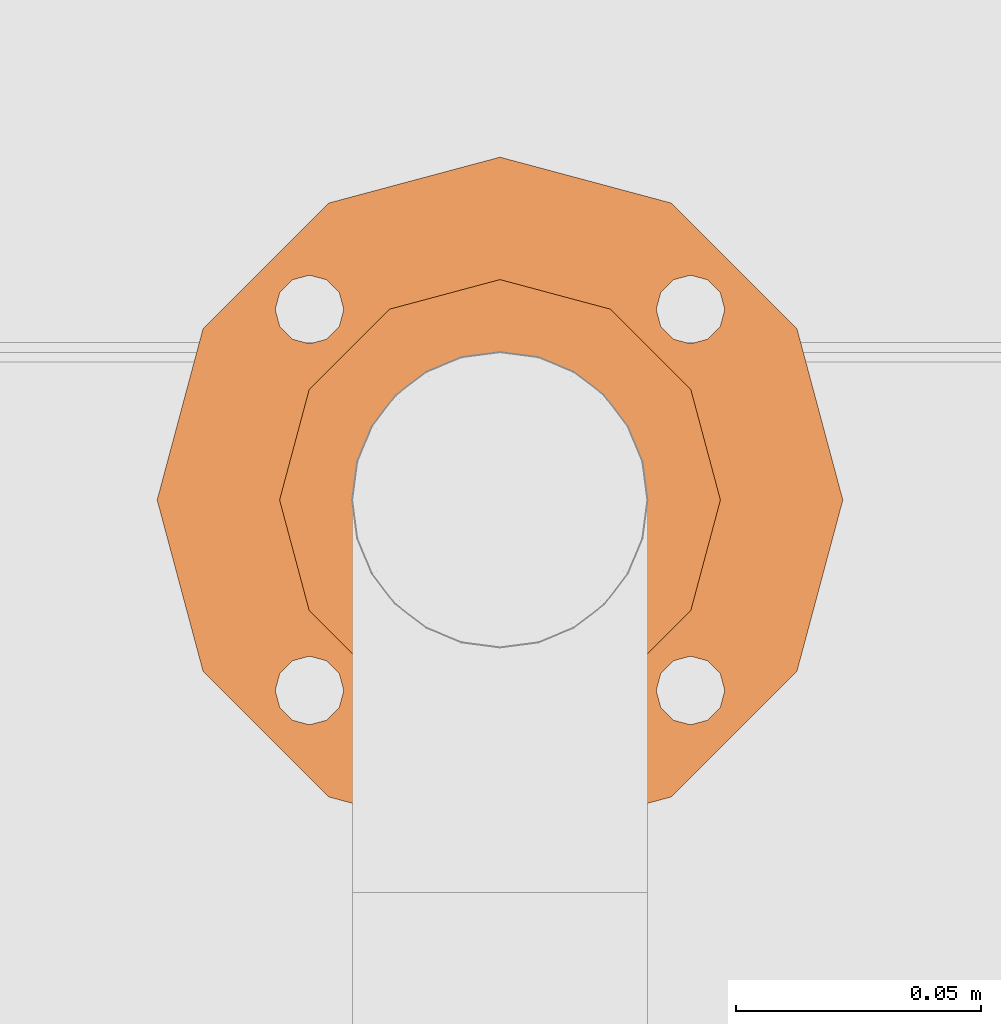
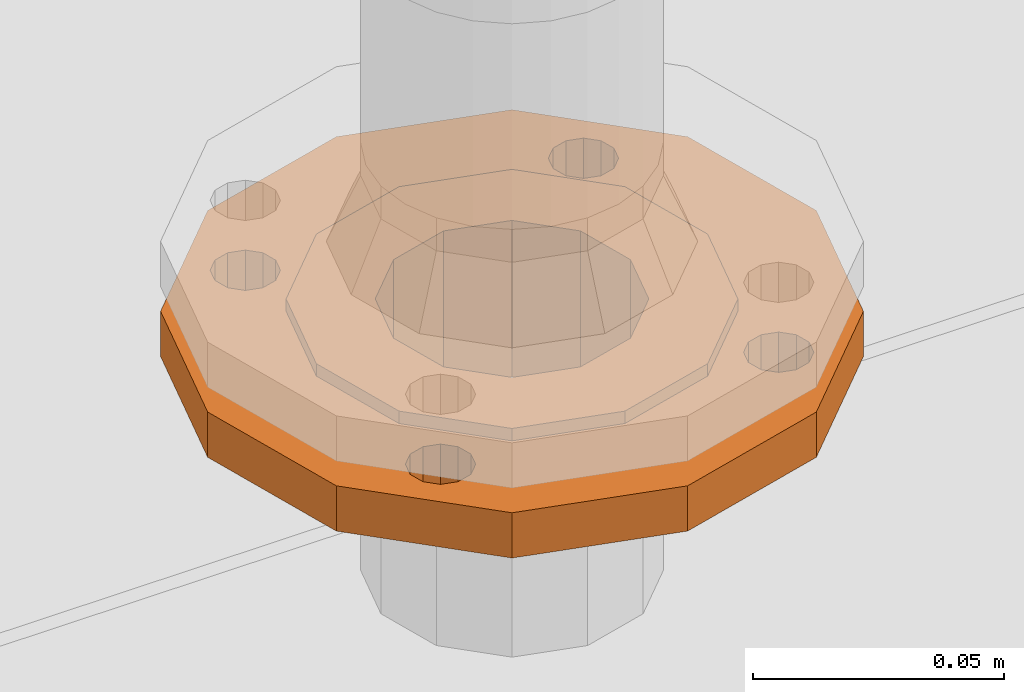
# One storey, part 368 of 374: 1 proxy.
"""IFC2X3 building model written with IfcOpenShell, lengths in metres."""

from ifc_helpers import new_model, si_unit, direction, origin, place, context, subcontext, project, spatial, open_shell, surface_model, source, transform, mapped, element, save


model = new_model("IFC2X3")

# Units and contexts
model_context = context("Model", 3, precision=1e-05, world=origin(), true_north=direction((-0.4480736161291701, 0.8939966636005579)))
body_context = subcontext(model_context, "Body", "Model", "MODEL_VIEW")
ifc_project = project(units=[si_unit("LENGTHUNIT", "METRE"), si_unit("AREAUNIT", "SQUARE_METRE"), si_unit("VOLUMEUNIT", "CUBIC_METRE"), si_unit("PLANEANGLEUNIT", "RADIAN"), si_unit("THERMODYNAMICTEMPERATUREUNIT", "KELVIN"), si_unit("MASSUNIT", "GRAM", prefix="KILO"), si_unit("TIMEUNIT", "SECOND")], contexts=[model_context])

# Site, building, storey
site_placement = place(None, origin())
site = spatial("IfcSite", under=ifc_project, at=site_placement, Name="Site 1", CompositionType="ELEMENT")
building_placement = place(site_placement, origin())
building = spatial("IfcBuilding", under=site, at=building_placement, Name="Undefined", CompositionType="ELEMENT")
storey_placement = place(building_placement, origin())
storey = spatial("IfcBuildingStorey", under=building, at=storey_placement, Name="Rez de chauss\x8ee", CompositionType="ELEMENT", Elevation=0.0)

# Proxy
shared_shape = source(origin(), body_context, "Body", "SurfaceModel", [
    surface_model("IfcFaceBasedSurfaceModel", [(0.011581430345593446, 7.105427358e-15, 7.105427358e-15), (0.010447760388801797, 0.0034415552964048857, 3.552713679e-15), (0.0, 0.0, 0.0), (0.009465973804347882, 0.006422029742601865, 0.0018117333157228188), (-0.0009817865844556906, 0.0029804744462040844, 0.0018117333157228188), (0.00889913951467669, 0.008142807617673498, 0.004949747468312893), (-0.0015486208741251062, 0.004701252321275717, 0.004949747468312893), (0.008899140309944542, 0.008142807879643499, 0.00857321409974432), (-0.001548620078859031, 0.004701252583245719, 0.00857321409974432), (0.009465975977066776, 0.006422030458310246, 0.011711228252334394), (-0.0009817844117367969, 0.002980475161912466, 0.011711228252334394), (0.010447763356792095, 0.003441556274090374, 0.013522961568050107), (2.967988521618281e-09, 9.77685488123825e-10, 0.013522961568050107), (0.01158143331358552, 9.77678382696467e-10, 0.013522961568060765), (0.0011336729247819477, -0.0034415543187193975, 0.013522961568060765), (0.012563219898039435, -0.0029804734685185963, 0.011711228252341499), (0.0021154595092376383, -0.0064220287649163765, 0.011711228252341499), (0.013130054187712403, -0.004701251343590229, 0.008573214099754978), (0.0026822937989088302, -0.00814280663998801, 0.008573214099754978), (0.013130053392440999, -0.004701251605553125, 0.004949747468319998), (0.002682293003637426, -0.00814280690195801, 0.004949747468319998), (0.012563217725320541, -0.0029804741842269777, 0.0018117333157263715), (0.002115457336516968, -0.006422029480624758, 0.0018117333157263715), (0.0011336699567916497, -0.003441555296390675, 7.105427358e-15), (0.010447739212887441, 0.003441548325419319, -0.09647703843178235), (0.011581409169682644, -6.970971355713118e-09, -0.0964770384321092), (0.0011336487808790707, -0.003441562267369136, -0.0964770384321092), (0.01256319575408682, -0.0029804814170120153, -0.09828877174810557), (0.002115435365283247, -0.0064220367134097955, -0.09828877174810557), (0.01313003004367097, -0.004701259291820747, -0.10142678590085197), (0.0026822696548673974, -0.008142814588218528, -0.10142678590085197), (0.013130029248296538, -0.004701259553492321, -0.1050502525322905), (0.0026822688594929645, -0.008142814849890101, -0.1050502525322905), (0.012563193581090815, -0.0029804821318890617, -0.10818826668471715), (0.0021154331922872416, -0.006422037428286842, -0.10818826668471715), (0.011581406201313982, -7.947498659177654e-09, -0.1100000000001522), (0.001133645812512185, -0.003441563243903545, -0.1100000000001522), (0.010447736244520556, 0.0034415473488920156, -0.10999999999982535), (-2.414428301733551e-08, -7.947505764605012e-09, -0.10999999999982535), (0.009465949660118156, 0.006422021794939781, -0.10818826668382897), (-0.0009818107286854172, 0.0029804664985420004, -0.10818826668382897), (0.008899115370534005, 0.008142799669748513, -0.10505025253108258), (-0.0015486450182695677, 0.0047012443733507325, -0.10505025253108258), (0.008899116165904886, 0.00814279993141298, -0.10142678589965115), (-0.001548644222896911, 0.004701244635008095, -0.10142678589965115), (0.009465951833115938, 0.006422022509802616, -0.0982887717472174), (-0.0009818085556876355, 0.002980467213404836, -0.0982887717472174), (-2.1175916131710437e-08, -6.970978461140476e-09, -0.09647703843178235), (-0.0040777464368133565, 0.04753754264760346, -0.04642678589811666), (-0.004077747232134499, 0.04753754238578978, -0.05005025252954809), (-0.014525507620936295, 0.044095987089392, -0.05005025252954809), (-0.004644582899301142, 0.04925831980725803, -0.0531882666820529), (-0.015092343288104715, 0.04581676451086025, -0.0531882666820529), (-0.005626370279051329, 0.052238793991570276, -0.05499999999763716), (-0.016074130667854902, 0.04879723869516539, -0.05499999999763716), (-0.006760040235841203, 0.05568034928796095, -0.05499999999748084), (-0.017207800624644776, 0.05223879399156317, -0.05499999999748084), (-0.007741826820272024, 0.05866082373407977, -0.05318826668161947), (-0.018189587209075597, 0.05521926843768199, -0.05318826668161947), (-0.008308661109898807, 0.060381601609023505, -0.05005025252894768), (-0.01875642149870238, 0.056940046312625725, -0.05005025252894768), (-0.008308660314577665, 0.06038160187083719, -0.0464267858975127), (-0.018756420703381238, 0.0569400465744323, -0.0464267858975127), (-0.007741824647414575, 0.05866082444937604, -0.04328877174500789), (-0.018189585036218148, 0.055219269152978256, -0.04328877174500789), (-0.006760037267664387, 0.055680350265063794, -0.04147703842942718), (-0.017207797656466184, 0.052238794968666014, -0.04147703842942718), (-0.005626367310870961, 0.05223879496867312, -0.04147703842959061), (-0.016074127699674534, 0.04879723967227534, -0.04147703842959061), (-0.004644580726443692, 0.049258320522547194, -0.04328877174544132), (-0.015092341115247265, 0.045816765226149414, -0.04328877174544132), (-0.01452550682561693, 0.04409598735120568, -0.04642678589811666), (0.02610691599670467, -0.0440959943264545, -0.050050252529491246), (0.026106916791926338, -0.04409599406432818, -0.046426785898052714), (0.015659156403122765, -0.04753754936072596, -0.046426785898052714), (0.026673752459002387, -0.04581677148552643, -0.043288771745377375), (0.01622599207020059, -0.04925832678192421, -0.043288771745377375), (0.02765553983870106, -0.04879724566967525, -0.041477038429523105), (0.017207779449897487, -0.052238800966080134, -0.041477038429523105), (0.02878920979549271, -0.05223880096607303, -0.04147703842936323), (0.018341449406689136, -0.05568035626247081, -0.04147703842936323), (0.029770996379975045, -0.05521927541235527, -0.04328877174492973), (0.019323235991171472, -0.05866083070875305, -0.04328877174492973), (0.030337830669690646, -0.056940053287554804, -0.04642678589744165), (0.019890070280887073, -0.060381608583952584, -0.04642678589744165), (0.030337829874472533, -0.05694005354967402, -0.050050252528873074), (0.01989006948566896, -0.060381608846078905, -0.050050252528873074), (0.029770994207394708, -0.05521927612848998, -0.05318826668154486), (0.019323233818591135, -0.05866083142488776, -0.05318826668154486), (0.028789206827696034, -0.05223880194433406, -0.054999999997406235), (0.018341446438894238, -0.05568035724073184, -0.054999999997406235), (0.027655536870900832, -0.04879724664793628, -0.05499999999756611), (0.017207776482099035, -0.05223880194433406, -0.05499999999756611), (0.02667375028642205, -0.04581677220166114, -0.053188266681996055), (0.016225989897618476, -0.04925832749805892, -0.053188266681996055), (0.015659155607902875, -0.04753754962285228, -0.050050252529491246), (-0.01978685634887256, -0.016641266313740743, -0.07736118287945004), (-0.015558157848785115, -0.029478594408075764, -0.06955778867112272), (-0.016199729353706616, -0.027530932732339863, -0.06750717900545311), (-0.013116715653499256, -0.036890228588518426, -0.05604191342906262), (-0.013993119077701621, -0.034229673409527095, -0.05529133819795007), (-0.013116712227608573, -0.03689022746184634, -0.04043512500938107), (-0.013993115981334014, -0.03422967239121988, -0.041185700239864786), (-0.015558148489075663, -0.029478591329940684, -0.026919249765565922), (-0.016199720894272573, -0.027530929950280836, -0.02896985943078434), (-0.02002167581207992, -0.015928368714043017, -0.021917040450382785), (-0.019786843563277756, -0.01664126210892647, -0.019115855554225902), (-0.024434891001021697, -0.0025308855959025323, -0.021917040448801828), (-0.024669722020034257, -0.0018179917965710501, -0.019115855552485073), (-0.028256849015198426, 0.009071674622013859, -0.028969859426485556), (-0.028898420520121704, 0.01101933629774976, -0.02691924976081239), (-0.03133986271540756, 0.018430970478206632, -0.040435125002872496), (-0.03046345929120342, 0.015770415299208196, -0.041185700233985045), (-0.03133986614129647, 0.018430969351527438, -0.056041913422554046), (-0.03046346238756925, 0.015770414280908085, -0.05529133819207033), (-0.028256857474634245, 0.009071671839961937, -0.06750717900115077), (-0.028898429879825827, 0.011019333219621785, -0.06955778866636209), (-0.024434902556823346, -0.002530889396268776, -0.07455999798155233), (-0.024669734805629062, -0.0018179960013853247, -0.07736118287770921), (-0.020021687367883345, -0.015928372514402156, -0.07455999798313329), (-0.005518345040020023, -0.034387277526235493, -0.05604191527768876), (-0.007959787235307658, -0.02697564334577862, -0.06955779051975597), (-0.012188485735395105, -0.014138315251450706, -0.07736118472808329), (-0.017071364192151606, 0.0006849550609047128, -0.07736118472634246), (-0.02130005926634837, 0.013522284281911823, -0.06955779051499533), (-0.02374149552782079, 0.020933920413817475, -0.05604191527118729), (-0.023741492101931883, 0.02093392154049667, -0.04043512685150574), (-0.021300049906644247, 0.013522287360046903, -0.026919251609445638), (-0.0170713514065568, 0.0006849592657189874, -0.019115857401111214), (-0.012188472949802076, -0.014138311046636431, -0.01911585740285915), (-0.007959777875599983, -0.02697564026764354, -0.026919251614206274), (-0.005518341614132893, -0.0343872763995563, -0.040435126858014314), (0.011748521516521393, -0.03566579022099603, -0.05781482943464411), (0.008752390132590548, -0.026570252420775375, -0.07440147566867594), (0.0035629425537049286, -0.010816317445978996, -0.0839777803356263), (-0.002429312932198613, 0.0073747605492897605, -0.08397778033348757), (-0.00761875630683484, 0.02312869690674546, -0.07440147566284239), (-0.010614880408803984, 0.03222423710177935, -0.057814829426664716), (-0.010614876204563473, 0.03222423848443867, -0.03866222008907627), (-0.007618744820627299, 0.023128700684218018, -0.02207557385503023), (-0.0024292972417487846, 0.007374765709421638, -0.01249926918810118), (0.003562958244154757, -0.010816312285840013, -0.012499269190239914), (0.00875240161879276, -0.026570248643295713, -0.022075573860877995), (0.011748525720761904, -0.035665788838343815, -0.03866222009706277), (-0.014919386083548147, 0.045291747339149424, 0.0012589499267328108), (-0.020587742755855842, 0.062499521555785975, -0.030121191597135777), (-0.0051015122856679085, 0.015487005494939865, 0.019376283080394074), (0.0062351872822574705, -0.018928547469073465, 0.019376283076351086), (0.016053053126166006, -0.048733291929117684, 0.0012589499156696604), (0.021721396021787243, -0.06594107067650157, -0.030121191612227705), (0.01605303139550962, -0.04873329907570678, -0.09773599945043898), (0.02172138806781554, -0.06594107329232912, -0.06635585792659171), (0.006235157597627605, -0.018928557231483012, -0.11585333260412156), (-0.0051015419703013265, 0.015486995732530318, -0.11585333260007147), (-0.014919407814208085, 0.04529174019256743, -0.09773599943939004), (-0.0205877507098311, 0.06249951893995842, -0.06635585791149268), (0.03216914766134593, -0.06249951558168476, -0.06635586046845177), (0.026500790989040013, -0.04529174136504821, -0.09773600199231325), (0.016682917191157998, -0.015486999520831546, -0.11585333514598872), (0.005346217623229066, 0.01892855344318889, -0.11585333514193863), (-0.004471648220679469, 0.04873329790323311, -0.09773600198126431), (-0.010139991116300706, 0.06594107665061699, -0.06635586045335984), (-0.01013998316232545, 0.06594107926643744, -0.030121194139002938), (-0.004471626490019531, 0.048733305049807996, 0.0012589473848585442), (0.00534624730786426, 0.018928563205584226, 0.01937628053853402), (0.016682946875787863, -0.015486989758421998, 0.01937628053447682), (0.02650081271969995, -0.04529173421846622, 0.0012589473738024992), (0.03216915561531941, -0.0624995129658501, -0.03012119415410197), (0.007370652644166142, 0.012782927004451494, -0.004771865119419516), (0.014658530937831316, -0.009341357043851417, -0.0047718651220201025), (0.020970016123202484, -0.028501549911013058, -0.016418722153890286), (0.02461395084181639, -0.0395636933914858, -0.036591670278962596), (0.014658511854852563, -0.009341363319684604, -0.0917051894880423), (0.00737063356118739, 0.012782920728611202, -0.0917051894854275), (-0.002584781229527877, 0.04300525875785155, -0.03659167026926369), (-0.0025847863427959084, 0.043005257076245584, -0.059885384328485), (0.0010591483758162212, 0.03194311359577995, -0.08005833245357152), (0.02461394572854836, -0.03956369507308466, -0.05988538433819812), (0.02097000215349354, -0.02850155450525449, -0.0800583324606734), (0.0010591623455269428, 0.031943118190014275, -0.016418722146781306), (0.027463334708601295, -0.038625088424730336, -0.05988538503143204), (0.02381939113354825, -0.027562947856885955, -0.08005833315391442), (0.017507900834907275, -0.008402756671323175, -0.09170519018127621), (0.010220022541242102, 0.013721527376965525, -0.09170519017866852), (0.00390853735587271, 0.03288172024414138, -0.08005833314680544), (0.00026460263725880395, 0.04394386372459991, -0.05988538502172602), (0.0002646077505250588, 0.04394386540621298, -0.0365916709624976), (0.003908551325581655, 0.0328817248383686, -0.016418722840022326), (0.010220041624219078, 0.013721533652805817, -0.004771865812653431), (0.017507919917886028, -0.008402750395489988, -0.004771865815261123), (0.02381940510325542, -0.027562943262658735, -0.0164187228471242), (0.027463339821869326, -0.03862508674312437, -0.036591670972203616), (0.016070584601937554, -0.004039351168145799, -0.021917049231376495), (0.019892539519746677, -0.015641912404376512, -0.02896986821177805), (0.022099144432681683, -0.02234065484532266, -0.041185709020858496), (0.022099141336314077, -0.02234065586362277, -0.05529134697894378), (0.01989253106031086, -0.01564191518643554, -0.06750718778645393), (0.011657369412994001, 0.00935813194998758, -0.021917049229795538), (0.007835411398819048, 0.020960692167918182, -0.02896986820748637), (0.005628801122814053, 0.02765943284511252, -0.041185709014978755), (0.0056287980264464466, 0.027659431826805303, -0.05529134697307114), (0.00783540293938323, 0.02096068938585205, -0.06750718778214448), (0.011657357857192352, 0.009358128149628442, -0.07456000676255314), (0.01607057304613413, -0.004039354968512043, -0.074560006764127)], [open_shell([[[0, 1, 2]], [[2, 1, 3]], [[2, 3, 4]], [[4, 3, 5]], [[4, 5, 6]], [[6, 5, 7]], [[6, 7, 8]], [[8, 7, 9]], [[8, 9, 10]], [[10, 9, 11]], [[10, 11, 12]], [[12, 11, 13]], [[12, 13, 14]], [[14, 13, 15]], [[14, 15, 16]], [[16, 15, 17]], [[16, 17, 18]], [[18, 17, 19]], [[18, 19, 20]], [[20, 19, 21]], [[20, 21, 22]], [[22, 21, 0]], [[22, 0, 23]], [[23, 0, 2]], [[24, 25, 26]], [[26, 25, 27]], [[26, 27, 28]], [[28, 27, 29]], [[28, 29, 30]], [[30, 29, 31]], [[30, 31, 32]], [[32, 31, 33]], [[32, 33, 34]], [[34, 33, 35]], [[34, 35, 36]], [[36, 35, 37]], [[36, 37, 38]], [[38, 37, 39]], [[38, 39, 40]], [[40, 39, 41]], [[40, 41, 42]], [[42, 41, 43]], [[42, 43, 44]], [[44, 43, 45]], [[44, 45, 46]], [[46, 45, 24]], [[46, 24, 47]], [[47, 24, 26]], [[48, 49, 50]], [[50, 49, 51]], [[50, 51, 52]], [[52, 51, 53]], [[52, 53, 54]], [[54, 53, 55]], [[54, 55, 56]], [[56, 55, 57]], [[56, 57, 58]], [[58, 57, 59]], [[58, 59, 60]], [[60, 59, 61]], [[60, 61, 62]], [[62, 61, 63]], [[62, 63, 64]], [[64, 63, 65]], [[64, 65, 66]], [[66, 65, 67]], [[66, 67, 68]], [[68, 67, 69]], [[68, 69, 70]], [[70, 69, 48]], [[70, 48, 71]], [[71, 48, 50]], [[72, 73, 74]], [[74, 73, 75]], [[74, 75, 76]], [[76, 75, 77]], [[76, 77, 78]], [[78, 77, 79]], [[78, 79, 80]], [[80, 79, 81]], [[80, 81, 82]], [[82, 81, 83]], [[82, 83, 84]], [[84, 83, 85]], [[84, 85, 86]], [[86, 85, 87]], [[86, 87, 88]], [[88, 87, 89]], [[88, 89, 90]], [[90, 89, 91]], [[90, 91, 92]], [[92, 91, 93]], [[92, 93, 94]], [[94, 93, 72]], [[94, 72, 95]], [[95, 72, 74]], [[96, 97, 98]], [[98, 97, 99]], [[98, 99, 100]], [[100, 99, 101]], [[100, 101, 102]], [[102, 101, 103]], [[102, 103, 104]], [[104, 103, 105]], [[103, 106, 105]], [[105, 106, 107]], [[106, 108, 107]], [[107, 108, 109]], [[108, 110, 109]], [[109, 110, 111]], [[109, 111, 112]], [[112, 111, 113]], [[112, 113, 114]], [[114, 113, 115]], [[113, 116, 115]], [[115, 116, 117]], [[116, 118, 117]], [[117, 118, 119]], [[118, 96, 119]], [[119, 96, 98]], [[120, 97, 121]], [[121, 97, 96]], [[121, 96, 122]], [[122, 96, 118]], [[122, 118, 123]], [[123, 118, 116]], [[123, 116, 124]], [[124, 116, 113]], [[124, 113, 125]], [[125, 113, 111]], [[125, 111, 126]], [[126, 111, 110]], [[126, 110, 127]], [[127, 110, 108]], [[127, 108, 128]], [[128, 108, 106]], [[128, 106, 129]], [[129, 106, 103]], [[129, 103, 130]], [[130, 103, 101]], [[130, 101, 131]], [[131, 101, 99]], [[131, 99, 120]], [[120, 99, 97]], [[132, 121, 133]], [[133, 121, 122]], [[133, 122, 134]], [[134, 122, 123]], [[134, 123, 135]], [[135, 123, 124]], [[135, 124, 136]], [[136, 124, 125]], [[136, 125, 137]], [[137, 125, 126]], [[137, 126, 138]], [[138, 126, 127]], [[138, 127, 139]], [[139, 127, 128]], [[139, 128, 140]], [[140, 128, 129]], [[140, 129, 141]], [[141, 129, 130]], [[141, 130, 142]], [[142, 130, 131]], [[142, 131, 143]], [[143, 131, 120]], [[143, 120, 132]], [[132, 120, 121]], [[2, 4, 140]], [[140, 4, 6]], [[140, 6, 139]], [[139, 6, 144]], [[139, 144, 68]], [[68, 144, 145]], [[68, 145, 66]], [[66, 145, 64]], [[144, 6, 146]], [[146, 6, 8]], [[146, 8, 10]], [[10, 12, 146]], [[146, 12, 147]], [[12, 14, 147]], [[147, 14, 16]], [[147, 16, 18]], [[18, 20, 147]], [[147, 20, 148]], [[22, 141, 20]], [[20, 141, 142]], [[20, 142, 148]], [[148, 142, 78]], [[148, 78, 149]], [[149, 78, 80]], [[149, 80, 82]], [[22, 23, 141]], [[141, 23, 2]], [[141, 2, 140]], [[26, 28, 134]], [[134, 28, 30]], [[134, 30, 133]], [[133, 30, 150]], [[133, 150, 92]], [[92, 150, 151]], [[92, 151, 90]], [[90, 151, 88]], [[150, 30, 152]], [[152, 30, 32]], [[152, 32, 34]], [[34, 36, 152]], [[152, 36, 153]], [[36, 38, 153]], [[153, 38, 40]], [[153, 40, 42]], [[42, 44, 153]], [[153, 44, 154]], [[46, 135, 44]], [[44, 135, 136]], [[44, 136, 154]], [[154, 136, 54]], [[154, 54, 155]], [[155, 54, 56]], [[155, 56, 58]], [[46, 47, 135]], [[135, 47, 134]], [[47, 26, 134]], [[68, 70, 138]], [[138, 70, 71]], [[138, 71, 50]], [[138, 50, 137]], [[137, 50, 52]], [[137, 52, 54]], [[58, 60, 155]], [[155, 60, 145]], [[60, 62, 145]], [[145, 62, 64]], [[92, 94, 132]], [[132, 94, 95]], [[132, 95, 74]], [[132, 74, 143]], [[143, 74, 76]], [[143, 76, 78]], [[82, 84, 149]], [[149, 84, 86]], [[149, 86, 151]], [[151, 86, 88]], [[136, 137, 54]], [[138, 139, 68]], [[142, 143, 78]], [[132, 133, 92]], [[156, 150, 157]], [[157, 150, 152]], [[157, 152, 158]], [[158, 152, 153]], [[158, 153, 159]], [[159, 153, 154]], [[159, 154, 160]], [[160, 154, 155]], [[160, 155, 161]], [[161, 155, 145]], [[161, 145, 162]], [[162, 145, 144]], [[162, 144, 163]], [[163, 144, 146]], [[163, 146, 164]], [[164, 146, 147]], [[164, 147, 165]], [[165, 147, 148]], [[165, 148, 166]], [[166, 148, 149]], [[166, 149, 167]], [[167, 149, 151]], [[167, 151, 156]], [[156, 151, 150]], [[5, 3, 168]], [[168, 3, 1]], [[168, 1, 169]], [[169, 1, 0]], [[169, 0, 21]], [[21, 19, 169]], [[169, 19, 165]], [[169, 165, 170]], [[170, 165, 166]], [[170, 166, 171]], [[171, 166, 167]], [[171, 167, 77]], [[77, 167, 79]], [[19, 17, 165]], [[165, 17, 15]], [[165, 15, 13]], [[165, 13, 164]], [[164, 13, 11]], [[164, 11, 9]], [[9, 7, 164]], [[164, 7, 5]], [[164, 5, 168]], [[29, 27, 172]], [[172, 27, 25]], [[172, 25, 173]], [[173, 25, 24]], [[173, 24, 45]], [[45, 43, 173]], [[173, 43, 159]], [[173, 159, 160]], [[43, 41, 159]], [[159, 41, 39]], [[159, 39, 37]], [[159, 37, 158]], [[158, 37, 35]], [[158, 35, 33]], [[33, 31, 158]], [[158, 31, 29]], [[158, 29, 172]], [[48, 69, 174]], [[174, 69, 67]], [[174, 67, 162]], [[162, 67, 65]], [[162, 65, 63]], [[63, 61, 162]], [[162, 61, 59]], [[162, 59, 161]], [[161, 59, 57]], [[161, 57, 55]], [[55, 53, 161]], [[161, 53, 175]], [[161, 175, 160]], [[160, 175, 176]], [[160, 176, 173]], [[53, 51, 175]], [[175, 51, 49]], [[175, 49, 174]], [[174, 49, 48]], [[72, 93, 177]], [[177, 93, 91]], [[177, 91, 156]], [[156, 91, 89]], [[156, 89, 87]], [[87, 85, 156]], [[156, 85, 167]], [[85, 83, 167]], [[167, 83, 81]], [[167, 81, 79]], [[77, 75, 171]], [[171, 75, 73]], [[171, 73, 72]], [[177, 156, 178]], [[178, 156, 157]], [[178, 157, 158]], [[177, 171, 72]], [[164, 168, 163]], [[163, 168, 179]], [[163, 179, 162]], [[162, 179, 174]], [[172, 178, 158]], [[180, 178, 181]], [[181, 178, 172]], [[181, 172, 182]], [[182, 172, 173]], [[182, 173, 183]], [[183, 173, 176]], [[183, 176, 184]], [[184, 176, 175]], [[184, 175, 185]], [[185, 175, 174]], [[185, 174, 186]], [[186, 174, 179]], [[186, 179, 187]], [[187, 179, 168]], [[187, 168, 188]], [[188, 168, 169]], [[188, 169, 189]], [[189, 169, 170]], [[189, 170, 190]], [[190, 170, 171]], [[190, 171, 191]], [[191, 171, 177]], [[191, 177, 180]], [[180, 177, 178]], [[192, 189, 193]], [[193, 189, 190]], [[193, 190, 194]], [[194, 190, 191]], [[194, 191, 195]], [[195, 191, 180]], [[195, 180, 196]], [[196, 180, 181]], [[196, 181, 182]], [[192, 197, 189]], [[189, 197, 188]], [[197, 198, 188]], [[188, 198, 187]], [[187, 198, 186]], [[186, 198, 199]], [[186, 199, 185]], [[185, 199, 200]], [[185, 200, 184]], [[184, 200, 201]], [[184, 201, 202]], [[184, 202, 183]], [[183, 202, 203]], [[183, 203, 182]], [[182, 203, 196]], [[100, 196, 98]], [[98, 196, 203]], [[98, 203, 119]], [[119, 203, 202]], [[119, 202, 117]], [[117, 202, 201]], [[117, 201, 115]], [[115, 201, 200]], [[115, 200, 114]], [[114, 200, 199]], [[114, 199, 112]], [[112, 199, 198]], [[112, 198, 109]], [[109, 198, 197]], [[109, 197, 107]], [[107, 197, 192]], [[107, 192, 105]], [[105, 192, 193]], [[105, 193, 104]], [[104, 193, 194]], [[104, 194, 102]], [[102, 194, 195]], [[102, 195, 100]], [[100, 195, 196]]])]),
])
proxy_placement = place(storey_placement, origin())
element("IfcBuildingElementProxy", 1, at=proxy_placement, inside=storey, Name="BuildingElementProxy 17", context=body_context, shape_type="MappedRepresentation", body=[
    mapped(shared_shape, transform((53.88427080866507, 13.091603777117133, 1.2860000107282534), x_axis=(-0.22123155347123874, -0.22123155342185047, 0.9497963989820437), y_axis=(0.6716074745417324, 0.6716074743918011, 0.3128686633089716), z_axis=(-0.7071067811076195, 0.7071067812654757, 0.0))),
])

save(model, "model.ifc")
